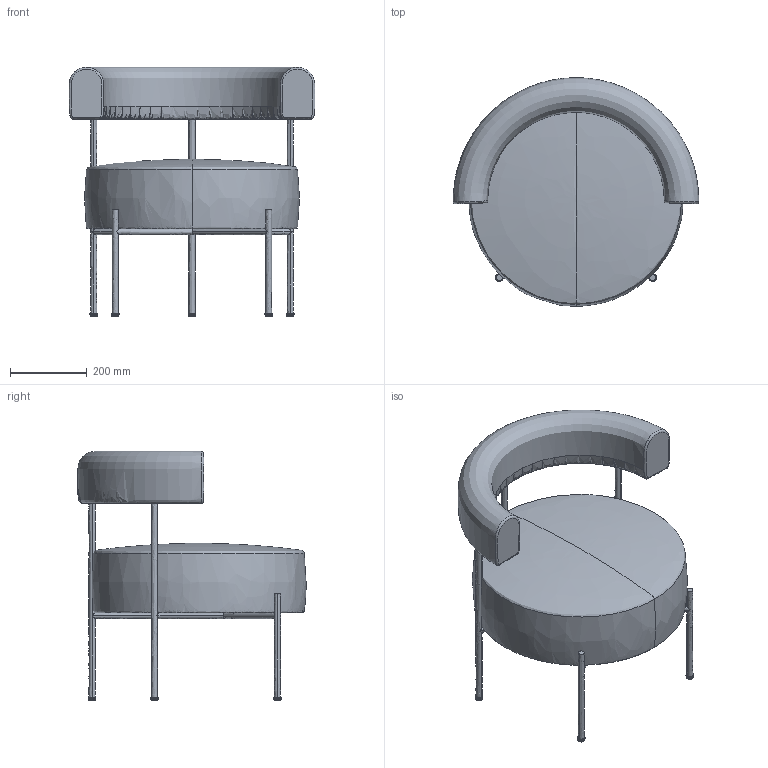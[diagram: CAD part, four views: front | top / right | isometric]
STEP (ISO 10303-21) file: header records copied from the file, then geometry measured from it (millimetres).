
FILE_DESCRIPTION(/* description */ (''),/* implementation_level */ '2;1');
FILE_NAME(/* name */ 'kinoshita_abord_s007',/* time_stamp */ '2024-04-25T11:26:52+09:00',/* author */ (''),/* organization */ (''),/* preprocessor_version */ 'ST-DEVELOPER v16.5',/* originating_system */ '',/* authorisation */ '');
FILE_SCHEMA (('AUTOMOTIVE_DESIGN'));
Length unit declared in the file: millimetre
Products named in the file (1): Document
Bounding box: 639.96 x 594.86 x 650 mm (x, y, z)
Volume: 51006645.1 mm3; surface area: 1419281.8 mm2
Topology: 3 solids, 3 shells, 105 faces, 233 edges, 135 vertices
Faces by surface type: bspline 88, plane 17
Entity records: 6130 total; most frequent: CARTESIAN_POINT 4865, ORIENTED_EDGE 458, EDGE_CURVE 229, VERTEX_POINT 135, EDGE_LOOP 114, ADVANCED_FACE 105, FACE_OUTER_BOUND 105, B_SPLINE_CURVE_WITH_KNOTS 28
